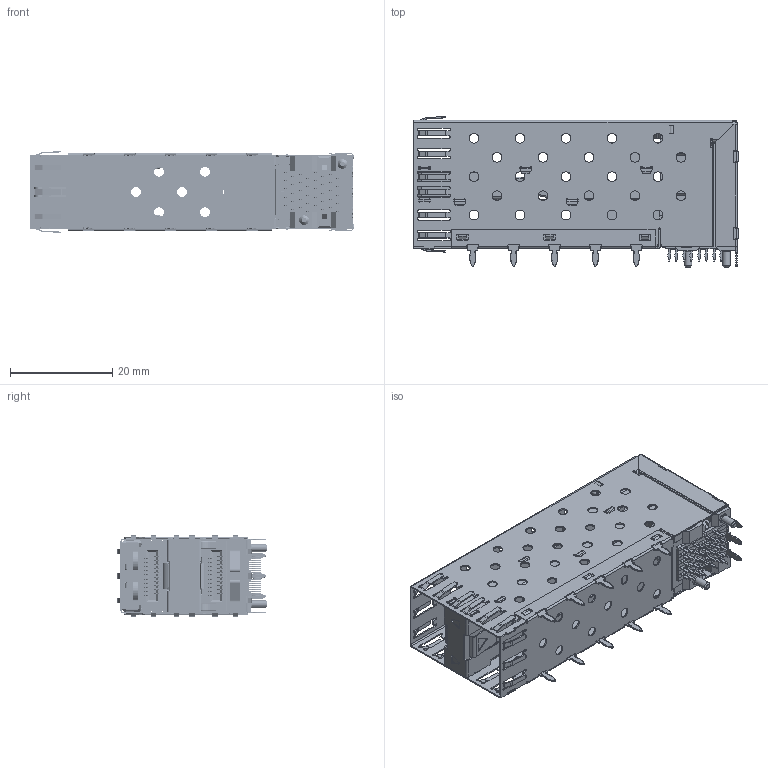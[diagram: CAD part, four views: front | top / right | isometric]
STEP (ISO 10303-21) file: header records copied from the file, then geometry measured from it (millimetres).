
FILE_DESCRIPTION (( 'STEP AP214' ), '1' );
FILE_NAME ('SAA0-1001210000-0000-X.STEP', '2021-06-11T05:48:16', ( '' ), ( '' ), 'SwSTEP 2.0', 'SolidWorks 2012', '' );
FILE_SCHEMA (( 'AUTOMOTIVE_DESIGN' ));
Length unit declared in the file: millimetre
Products named in the file (39): SSA0-M220-P_D TYPE; SSA0-M210_SSA0-M21001XX 客戶3D-Type B-XIN; SSD0-P150; SSA0-M210-P; SSA0-M220-P; SSA0-C110_SSA0-C11002XX 客戶3D-Type C-XIN; SSA0-M210_SSA0-M21000XX 客戶3D-Type A-XIN; SSA0-M220_SSA0-M22001XX 客戶3D-Type B-GND; SSA0-C110_SSA0-C11003XX 客戶3D-Type D-XIN; SSA0-M210-P_C TYPE; SSA0-M130 Conn+Lightpipe Ass''y-1_«È¤á3D DU Outer Lightpipe; SSD0-P130_for 4lightpipe-LED高度0.6 max(亮面+套筒; SSA0-C110_SSA0-C11000XX 客戶3D-Type A-GND; SSA0-C110_SSA0-C11001XX 客戶3D-Type B-GND; SSA0-M220_SSA0-M22000XX 客戶3D-Type A-GND; SSA0-S120_SFP; SBD0-S140_w\DU Outerlightpipe-ass''y; SSA0-P110; SSA0-S110-1_3.05-Legs13-SFP hole ass''y; SAA0-1001210000-0000-X; SBA0-S130_組裝
Assembly tree (38 placements, depth 4):
  SAA0-1001210000-0000-X
    SSA0-S110-1_3.05-Legs13-SFP hole ass''y
    SSA0-S120_SFP
    SBD0-S140_w\DU Outerlightpipe-ass''y
    SSA0-M130 Conn+Lightpipe Ass''y-1_«È¤á3D DU Outer Lightpipe
      SSA0-P110
      SBA0-S130_組裝
      SSA0-M220_SSA0-M22000XX 客戶3D-Type A-GND
        SSA0-M220-P
        SSA0-C110_SSA0-C11000XX 客戶3D-Type A-GND
      SSA0-M210_SSA0-M21001XX 客戶3D-Type B-XIN
        SSA0-M210-P
        SSA0-C110_SSA0-C11003XX 客戶3D-Type D-XIN
      SSA0-M210_SSA0-M21000XX 客戶3D-Type A-XIN
        SSA0-M210-P_C TYPE
        SSA0-C110_SSA0-C11002XX 客戶3D-Type C-XIN
      SSA0-M220_SSA0-M22001XX 客戶3D-Type B-GND
        SSA0-M220-P_D TYPE
        SSA0-C110_SSA0-C11001XX 客戶3D-Type B-GND
      SSA0-M210_SSA0-M21000XX 客戶3D-Type A-XIN
        SSA0-M210-P_C TYPE
        SSA0-C110_SSA0-C11002XX 客戶3D-Type C-XIN
      SSA0-M210_SSA0-M21001XX 客戶3D-Type B-XIN
        SSA0-M210-P
        SSA0-C110_SSA0-C11003XX 客戶3D-Type D-XIN
      SSA0-M220_SSA0-M22000XX 客戶3D-Type A-GND
        SSA0-M220-P
        SSA0-C110_SSA0-C11000XX 客戶3D-Type A-GND
      SSA0-M210_SSA0-M21001XX 客戶3D-Type B-XIN
        SSA0-M210-P
        SSA0-C110_SSA0-C11003XX 客戶3D-Type D-XIN
      SSA0-M210_SSA0-M21000XX 客戶3D-Type A-XIN
        SSA0-M210-P_C TYPE
        SSA0-C110_SSA0-C11002XX 客戶3D-Type C-XIN
      SSA0-M220_SSA0-M22001XX 客戶3D-Type B-GND
        SSA0-M220-P_D TYPE
        SSA0-C110_SSA0-C11001XX 客戶3D-Type B-GND
      SSD0-P130_for 4lightpipe-LED高度0.6 max(亮面+套筒
      SSD0-P150
Bounding box: 63.5 x 29.5 x 16 mm (x, y, z)
Volume: 5459.3 mm3; surface area: 24336.6 mm2
Topology: 127 solids, 127 shells, 8546 faces, 22991 edges, 14610 vertices
Faces by surface type: plane 5848, cylinder 2526, bspline 116, cone 28, torus 28
Entity records: 272873 total; most frequent: CARTESIAN_POINT 53091, ORIENTED_EDGE 45982, DIRECTION 44559, EDGE_CURVE 22991, VECTOR 17563, LINE 17563, VERTEX_POINT 14610, AXIS2_PLACEMENT_3D 13498
